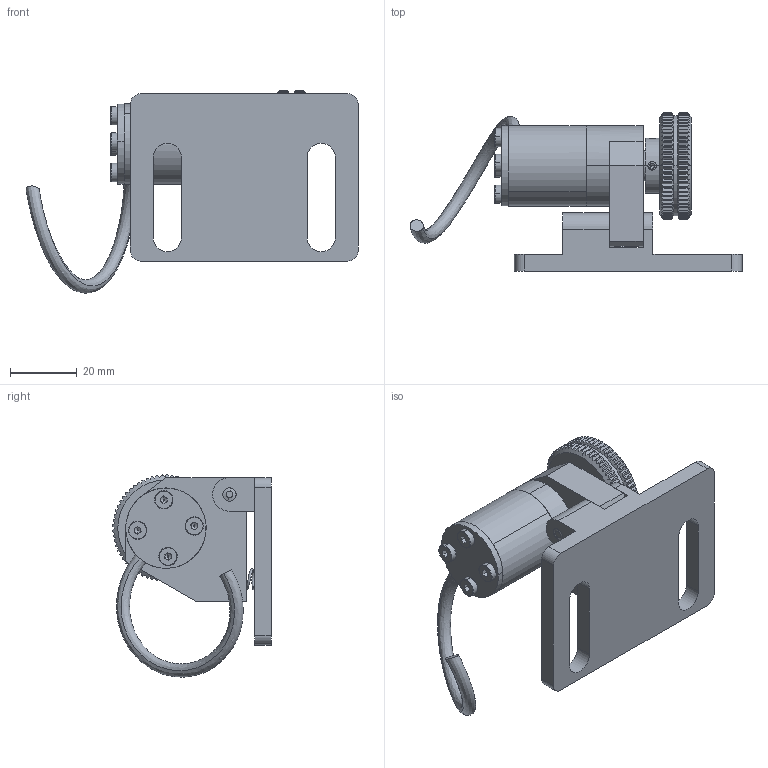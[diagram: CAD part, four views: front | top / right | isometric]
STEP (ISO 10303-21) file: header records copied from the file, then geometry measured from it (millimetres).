
FILE_DESCRIPTION (( 'STEP AP203' ), '1' );
FILE_NAME ('05.2400.0040.1000.5045.STEP', '2013-04-12T14:10:38', ( 'Hodot' ), ( '' ), 'SwSTEP 2.0', 'SolidWorks 2012', '' );
FILE_SCHEMA (( 'CONFIG_CONTROL_DESIGN' ));
Length unit declared in the file: millimetre
Products named in the file (18): 05.2400.0040.1000.5045; Zylinderstift d4 m6x25_Standard2_Standard; Reibrad BG-24-W-06-4001-V081_Standard2_Standard; Gehõuse BG-24-3001-V036_Standard2_Standard; Kabelklemme BG-24-3002-V036_Standard2_Standard; Teilscheibe_Standard2_Standard; Lagerflansch BG-24-W-06-1101-V081_Standard2_Standard; B³chse_Standard2_Standard; Kabel_Standard2_Standard; Spiralfeder_Standard2_Standard; Distanzring BG-34-W-06-1110-V001_Standard2_Standard; Halter-LED BG24-X-1150_Standard2_Standard; Zylinderschraube M3x6 DIN 7912_Standard2_Standard; Platine_Standard2_Standard; Welle BG-24-W-06-1102-V036_Standard2_Standard; Grundplatte BG-24-5001-V36_Standard2_Standard; Gewindestift DIN913 M3x5_Standard2_Standard; Rillenkugellager 6x19x6_Standard2_Standard
Assembly tree (24 placements, depth 2):
  05.2400.0040.1000.5045
    Rillenkugellager 6x19x6_Standard2_Standard  x2
    Gewindestift DIN913 M3x5_Standard2_Standard  x4
    Grundplatte BG-24-5001-V36_Standard2_Standard
    Welle BG-24-W-06-1102-V036_Standard2_Standard
    Platine_Standard2_Standard
    Zylinderschraube M3x6 DIN 7912_Standard2_Standard  x4
    Halter-LED BG24-X-1150_Standard2_Standard
    Distanzring BG-34-W-06-1110-V001_Standard2_Standard
    Spiralfeder_Standard2_Standard
    Kabel_Standard2_Standard
    B³chse_Standard2_Standard
    Lagerflansch BG-24-W-06-1101-V081_Standard2_Standard
    Teilscheibe_Standard2_Standard
    Kabelklemme BG-24-3002-V036_Standard2_Standard
    Gehõuse BG-24-3001-V036_Standard2_Standard
    Reibrad BG-24-W-06-4001-V081_Standard2_Standard
    Zylinderstift d4 m6x25_Standard2_Standard
Bounding box: 99.2 x 47.37 x 60.43 mm (x, y, z)
Volume: 46387.6 mm3; surface area: 32735.6 mm2
Topology: 24 solids, 24 shells, 1332 faces, 3597 edges, 2344 vertices
Faces by surface type: plane 847, cylinder 342, cone 76, torus 57, bspline 10
Entity records: 43924 total; most frequent: CARTESIAN_POINT 12672, ORIENTED_EDGE 6366, DIRECTION 5585, EDGE_CURVE 3183, VERTEX_POINT 2098, AXIS2_PLACEMENT_3D 1874, VECTOR 1837, LINE 1837
